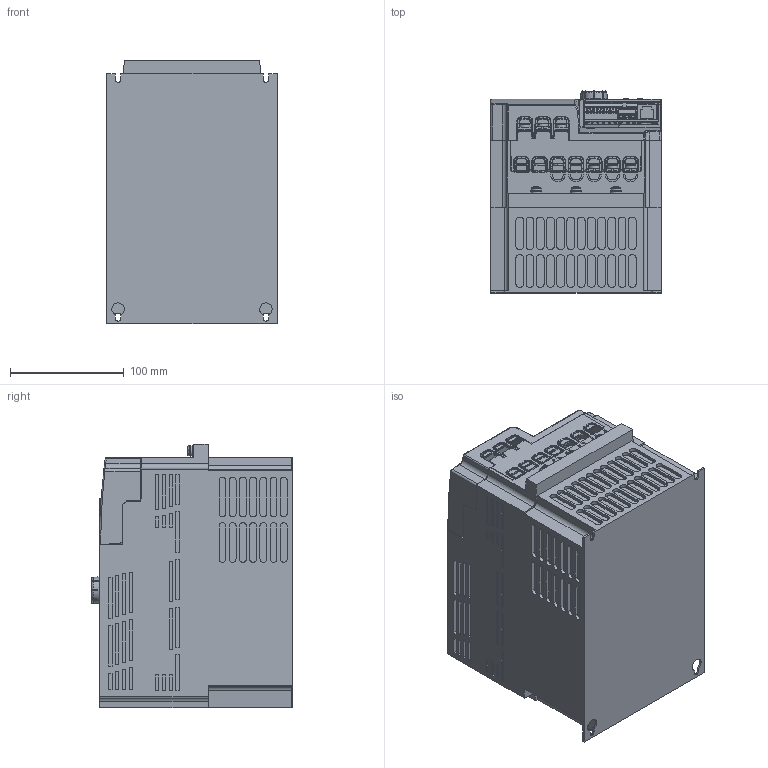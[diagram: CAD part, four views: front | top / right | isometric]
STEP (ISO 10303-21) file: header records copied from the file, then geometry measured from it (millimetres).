
FILE_DESCRIPTION((''),'2;1');
FILE_NAME('VFS15-2075PM_ASM','2015-09-10T',('SESA237464'),('Schneider-Electric'),'PRO/ENGINEER BY PARAMETRIC TECHNOLOGY CORPORATION, 2012420','PRO/ENGINEER BY PARAMETRIC TECHNOLOGY CORPORATION, 2012420','');
FILE_SCHEMA(('CONFIG_CONTROL_DESIGN'));
Products named in the file (9): VFS15-2075PM-01; TERMINAL-PCBA_2; VFS15-CONTROL-BLOCK_02; TB_SCREW-M5; BAR; VFS15-2075M-03; VFS15-2075PM-02; M5_12S; VFS15-2075PM_ASM
Assembly tree (19 placements, depth 2):
  VFS15-2075PM_ASM
    VFS15-2075PM-01
    TERMINAL-PCBA_2
    VFS15-CONTROL-BLOCK_02
    TB_SCREW-M5  x10
    BAR
    VFS15-2075M-03
    VFS15-2075PM-02
    M5_12S  x3
Bounding box: 150 x 177.49 x 232 mm (x, y, z)
Volume: 5032361.6 mm3; surface area: 344296.8 mm2
Topology: 19 solids, 49 shells, 5395 faces, 14808 edges, 9805 vertices
Faces by surface type: plane 4010, cylinder 987, cone 165, torus 109, bspline 61, sphere 47, extrusion 12, revolution 4
Entity records: 155489 total; most frequent: CARTESIAN_POINT 34560, ORIENTED_EDGE 25920, DIRECTION 23602, EDGE_CURVE 12960, VECTOR 9524, LINE 9512, VERTEX_POINT 8612, AXIS2_PLACEMENT_3D 7037
